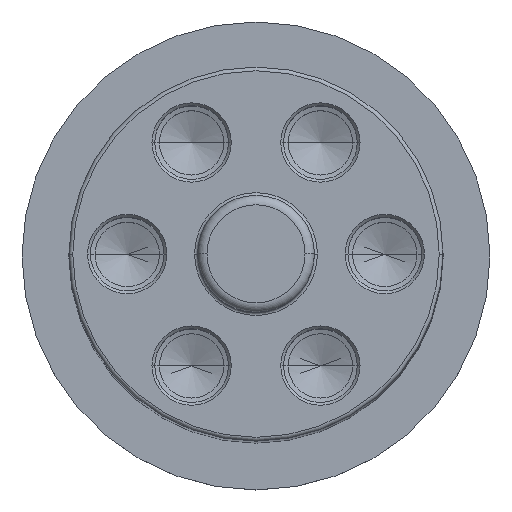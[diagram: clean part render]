
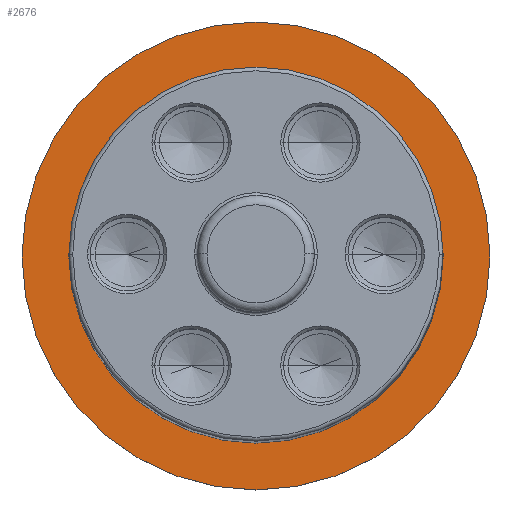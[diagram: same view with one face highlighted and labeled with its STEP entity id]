
A CAD part, top view. The second image highlights one B-rep face of the part: STEP entity #2676.
In plain terms, the highlighted planar face has unit normal (0, 0, 1).
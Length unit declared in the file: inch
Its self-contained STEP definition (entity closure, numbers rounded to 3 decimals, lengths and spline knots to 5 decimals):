
#2322 = DIRECTION ( 'NONE',  ( 1., 0., 0. ) ) ;
#2331 = CARTESIAN_POINT ( 'NONE',  ( -1., 0., -5.875 ) ) ;
#2334 = CARTESIAN_POINT ( 'NONE',  ( 0., 0., -5.875 ) ) ;
#2335 = DIRECTION ( 'NONE',  ( 0., 0., 1. ) ) ;
#2337 = CIRCLE ( 'NONE', #2368, 1.25 ) ;
#2343 = CARTESIAN_POINT ( 'NONE',  ( 1.25, 0., -5.875 ) ) ;
#2362 = CARTESIAN_POINT ( 'NONE',  ( -1.25, 0., -5.875 ) ) ;
#2366 = DIRECTION ( 'NONE',  ( 1., 0., 0. ) ) ;
#2367 = DIRECTION ( 'NONE',  ( 0., 0., 1. ) ) ;
#2368 = AXIS2_PLACEMENT_3D ( 'NONE', #2334, #2367, #2366 ) ;
#2436 = CARTESIAN_POINT ( 'NONE',  ( 0., 0., -5.875 ) ) ;
#2437 = AXIS2_PLACEMENT_3D ( 'NONE', #2436, #2335, #2322 ) ;
#2438 = CIRCLE ( 'NONE', #2437, 1. ) ;
#2444 = CARTESIAN_POINT ( 'NONE',  ( 1., 0., -5.875 ) ) ;
#2446 = AXIS2_PLACEMENT_3D ( 'NONE', #2518, #2517, #2516 ) ;
#2447 = CARTESIAN_POINT ( 'NONE',  ( 0., 0., -5.875 ) ) ;
#2451 = CIRCLE ( 'NONE', #2512, 1. ) ;
#2452 = DIRECTION ( 'NONE',  ( 1., 0., 0. ) ) ;
#2453 = DIRECTION ( 'NONE',  ( 0., 0., 1. ) ) ;
#2454 = CARTESIAN_POINT ( 'NONE',  ( 0., 0., -5.875 ) ) ;
#2460 = AXIS2_PLACEMENT_3D ( 'NONE', #2454, #2453, #2452 ) ;
#2461 = FACE_BOUND ( 'NONE', #2675, .T. ) ;
#2466 = CIRCLE ( 'NONE', #2460, 1.25 ) ;
#2510 = DIRECTION ( 'NONE',  ( 1., 0., 0. ) ) ;
#2511 = DIRECTION ( 'NONE',  ( 0., 0., 1. ) ) ;
#2512 = AXIS2_PLACEMENT_3D ( 'NONE', #2447, #2511, #2510 ) ;
#2516 = DIRECTION ( 'NONE',  ( 1., 0., 0. ) ) ;
#2517 = DIRECTION ( 'NONE',  ( 0., 0., 1. ) ) ;
#2518 = CARTESIAN_POINT ( 'NONE',  ( 0., 0., -5.875 ) ) ;
#2531 = FACE_OUTER_BOUND ( 'NONE', #2678, .T. ) ;
#2533 = PLANE ( 'NONE',  #2446 ) ;
#2671 = ORIENTED_EDGE ( 'NONE', *, *, #2721, .T. ) ;
#2672 = ORIENTED_EDGE ( 'NONE', *, *, #2674, .T. ) ;
#2673 = ORIENTED_EDGE ( 'NONE', *, *, #2679, .F. ) ;
#2674 = EDGE_CURVE ( 'NONE', #2709, #2708, #2466, .T. ) ;
#2675 = EDGE_LOOP ( 'NONE', ( #2677, #2673 ) ) ;
#2676 = ADVANCED_FACE ( 'NONE', ( #2531, #2461 ), #2533, .T. ) ;
#2677 = ORIENTED_EDGE ( 'NONE', *, *, #2701, .F. ) ;
#2678 = EDGE_LOOP ( 'NONE', ( #2672, #2671 ) ) ;
#2679 = EDGE_CURVE ( 'NONE', #2700, #2702, #2451, .T. ) ;
#2700 = VERTEX_POINT ( 'NONE', #2444 ) ;
#2701 = EDGE_CURVE ( 'NONE', #2702, #2700, #2438, .T. ) ;
#2702 = VERTEX_POINT ( 'NONE', #2331 ) ;
#2708 = VERTEX_POINT ( 'NONE', #2343 ) ;
#2709 = VERTEX_POINT ( 'NONE', #2362 ) ;
#2721 = EDGE_CURVE ( 'NONE', #2708, #2709, #2337, .T. ) ;
